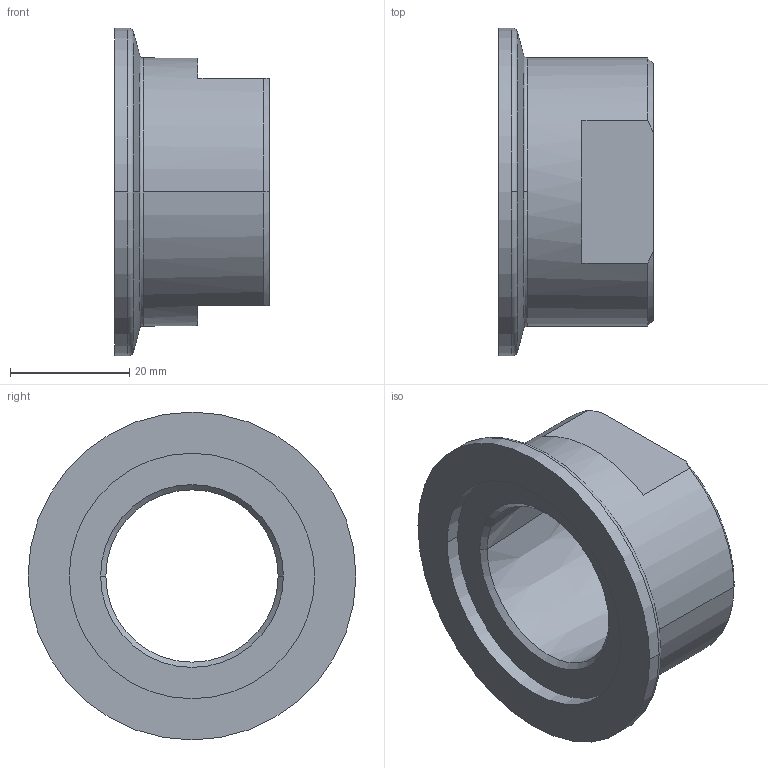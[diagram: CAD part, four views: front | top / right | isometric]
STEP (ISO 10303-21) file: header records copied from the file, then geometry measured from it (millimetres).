
FILE_DESCRIPTION((''),'2;1');
FILE_NAME('W:\211-576.stp','2003-10-13T13:01:26',('KAA'),(''),'Autodesk Inventor (R) 6.0','Autodesk Inventor (R) 6.0','');
FILE_SCHEMA(('CONFIG_CONTROL_DESIGN'));
Length unit declared in the file: millimetre
Products named in the file (1): 211-576
Bounding box: 26 x 55 x 55 mm (x, y, z)
Volume: 22467.7 mm3; surface area: 9237.5 mm2
Topology: 1 solids, 1 shells, 29 faces, 72 edges, 46 vertices
Faces by surface type: cone 12, plane 7, cylinder 6, torus 2, bspline 2
Entity records: 1057 total; most frequent: CARTESIAN_POINT 244, DIRECTION 168, ORIENTED_EDGE 144, AXIS2_PLACEMENT_3D 72, EDGE_CURVE 72, VERTEX_POINT 46, CIRCLE 44, EDGE_LOOP 32
